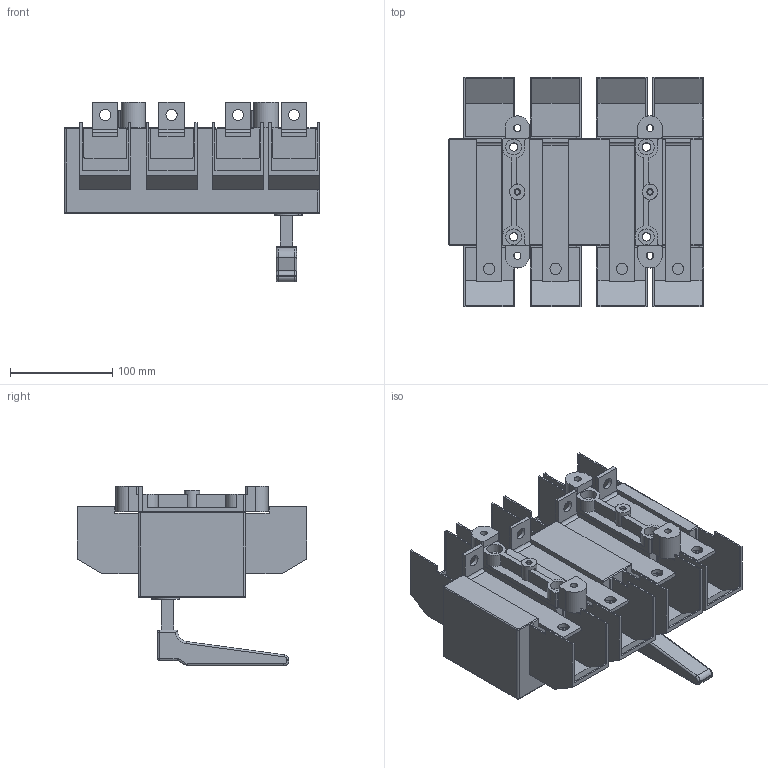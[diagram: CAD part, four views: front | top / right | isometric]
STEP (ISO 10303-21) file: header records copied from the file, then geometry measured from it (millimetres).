
FILE_DESCRIPTION(/* description */ (''),/* implementation_level */ '2;1');
FILE_NAME(/* name */ 'RA400 P3 NB-R z oslona zaciskow.stp',/* time_stamp */ '2021-08-18T14:17:38+02:00',/* author */ (''),/* organization */ (''),/* preprocessor_version */ 'ST-DEVELOPER v18.1',/* originating_system */ 'SIEMENS PLM Software NX 1965',/* authorisation */ '');
FILE_SCHEMA (('AUTOMOTIVE_DESIGN { 1 0 10303 214 3 1 1 1 }'));
Length unit declared in the file: millimetre
Products named in the file (1): RA400 P3 NB-R z oslona zaciskow
Bounding box: 250 x 225 x 176 mm (x, y, z)
Volume: 2435859.3 mm3; surface area: 344710.4 mm2
Topology: 1 solids, 1 shells, 488 faces, 1319 edges, 851 vertices
Faces by surface type: plane 331, cylinder 135, bspline 8, torus 8, sphere 6
Full cylindrical faces by diameter (mm): 4.8 x2, 6.2 x2, 7 x4, 8.2 x4, 11 x8, 14 x4, 15 x2, 15.5 x4
Entity records: 15183 total; most frequent: CARTESIAN_POINT 2777, ORIENTED_EDGE 2558, DIRECTION 2535, EDGE_CURVE 1279, LINE 977, VECTOR 977, VERTEX_POINT 844, AXIS2_PLACEMENT_3D 779
